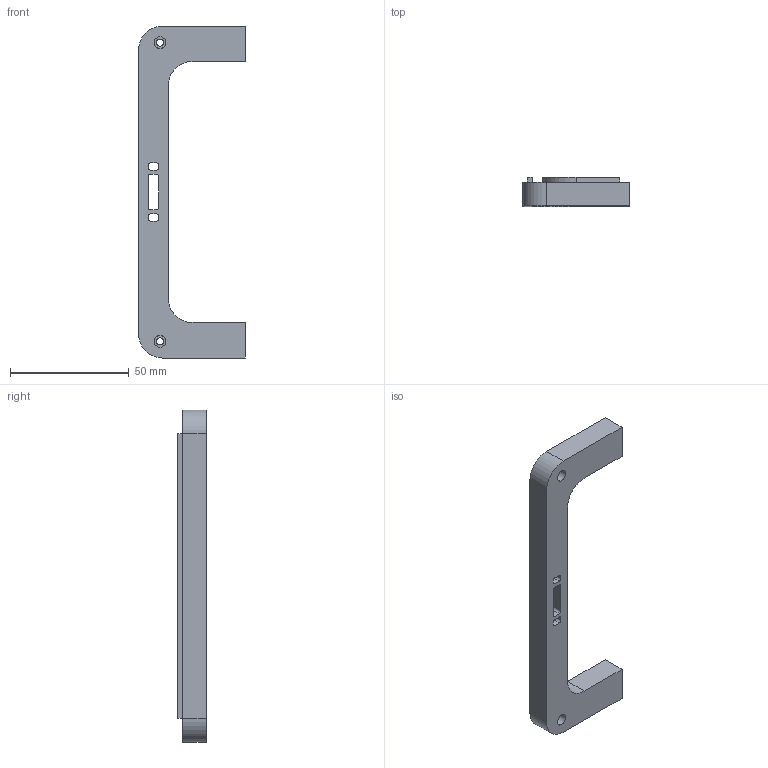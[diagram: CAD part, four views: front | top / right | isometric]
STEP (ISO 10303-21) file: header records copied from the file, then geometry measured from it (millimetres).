
FILE_DESCRIPTION (( 'STEP AP203' ), '1' );
FILE_NAME ('Bottomfront.STEP', '2016-05-26T15:02:34', ( '' ), ( '' ), 'SwSTEP 2.0', 'SolidWorks 2015', '' );
FILE_SCHEMA (( 'CONFIG_CONTROL_DESIGN' ));
Length unit declared in the file: millimetre
Products named in the file (1): Bottomfront
Bounding box: 45 x 12.03 x 140 mm (x, y, z)
Volume: 21181.7 mm3; surface area: 13388.8 mm2
Topology: 1 solids, 1 shells, 93 faces, 274 edges, 180 vertices
Faces by surface type: plane 46, cylinder 45, cone 2
Entity records: 3227 total; most frequent: DIRECTION 560, CARTESIAN_POINT 548, ORIENTED_EDGE 548, EDGE_CURVE 274, AXIS2_PLACEMENT_3D 192, VERTEX_POINT 180, LINE 176, VECTOR 176
